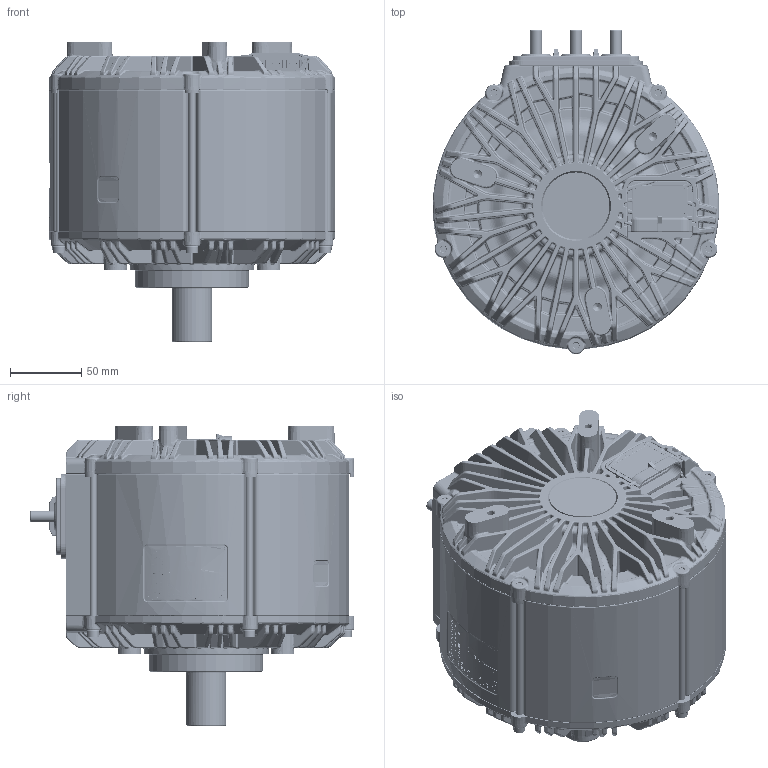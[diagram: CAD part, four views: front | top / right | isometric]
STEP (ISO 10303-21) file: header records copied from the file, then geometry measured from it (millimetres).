
FILE_DESCRIPTION (( 'STEP AP214' ), '1' );
FILE_NAME ('2219-002-006.STEP', '2024-06-10T12:43:42', ( '' ), ( '' ), 'SwSTEP 2.0', 'SolidWorks 2021', '' );
FILE_SCHEMA (( 'AUTOMOTIVE_DESIGN' ));
Length unit declared in the file: millimetre
Products named in the file (56): 9200-102-001; 2219-002-006; 9000-101-001; 1400-000-001_Defeatured (Ext. Only); 913A-008-020; 910B-005-016_M5X16mm; 1400-000-101; 9500-110-000; Copy of SOLID REP^1319-000-109; Imperial Shaft; 9500-102-000; 1400-000-003; 1119-080-104; 940B-001-100; 1219-080-013; 1319-000-101; 1400-000-100; 9000-101-002; 1119-080-004_Defeatured (Ext. Only); 9200-100-001; 1319-000-103; 1200-000-105; 1019-080-007_Defeatured (Ext. Only); 1119-000-102; 9000-101-000; 1119-000-002; 1119-000-101; 1219-080-014_Defeatured (Ext. Only); Copy of SOLID REP^1319-000-108; 1400-000-104; 1119-000-100; 1219-080-015_Defeature (ext. only); 915A-005-008; 1319-000-109; 1219-080-006; 921A-107-000_Installed length; 1119-000-106; 1319-000-108; 1119-000-003; 1119-000-004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
Assembly tree (55 placements, depth 8):
  9200-102-001
  2219-002-006
    1019-080-007_Defeatured (Ext. Only)
      1119-080-004_Defeatured (Ext. Only)
        1119-000-001_DE-FEATURED FOR EXTERNAL
          1119-000-002
            1119-000-100
            913A-008-020
          1119-000-003
            1119-000-101
            913A-008-020
          1119-000-004
            1119-000-102
            913A-008-020
        1119-080-104
      1219-080-015_Defeature (ext. only)
        1219-080-014_Defeatured (Ext. Only)
          1219-080-013
            1219-080-008
              1219-080-007
                1219-080-102_Blank
        915A-005-008
      1319-000-108
        1319-000-101
        Copy of SOLID REP^1319-000-108
      1319-000-109
        1319-000-103
        Copy of SOLID REP^1319-000-109
      1400-000-001_Defeatured (Ext. Only)
        1400-000-002
          1400-000-003
            1400-000-100
            1400-000-101
            1400-000-101
            1400-000-101
            1400-000-101
            1400-000-101
            1400-000-101
          1400-000-102
          9500-110-000
      940B-001-100
      940B-001-101
      921A-107-000_Installed length
      9700-000-001
      910B-005-120  x5
    Imperial Shaft
    910B-005-016_M5X16mm  x6
    9500-102-000
  9000-101-001
  9000-101-002
  9200-100-001
Bounding box: 201 x 227.8 x 210.74 mm (x, y, z)
Volume: 1785838.4 mm3; surface area: 584716.4 mm2
Topology: 68 solids, 68 shells, 12443 faces, 29559 edges, 17263 vertices
Faces by surface type: bspline 4669, cylinder 2598, plane 2241, torus 1531, cone 957, sphere 447
Entity records: 512737 total; most frequent: CARTESIAN_POINT 265820, ORIENTED_EDGE 56416, DIRECTION 43185, EDGE_CURVE 28208, AXIS2_PLACEMENT_3D 18372, VERTEX_POINT 16630, EDGE_LOOP 12302, ADVANCED_FACE 11959
